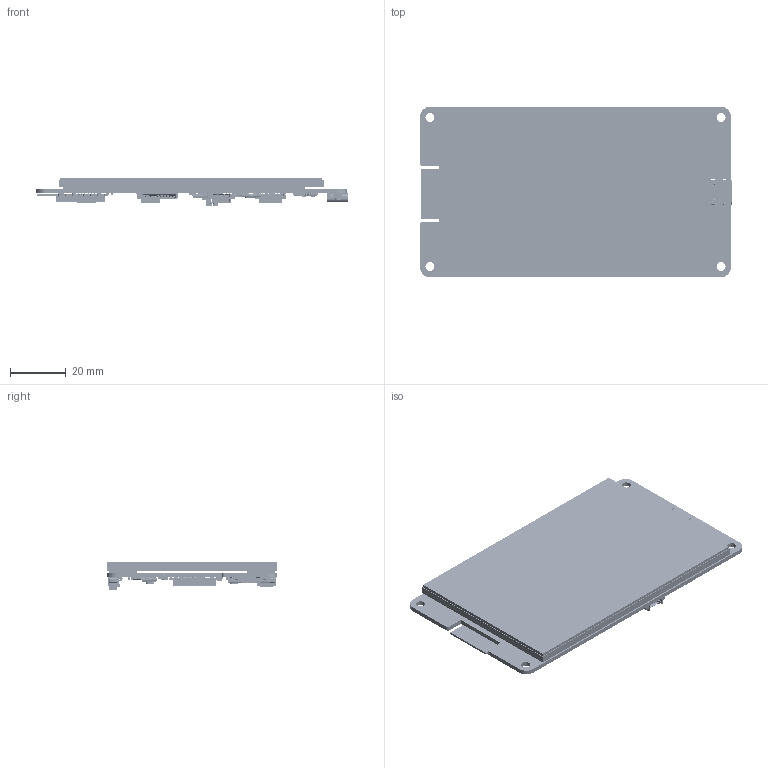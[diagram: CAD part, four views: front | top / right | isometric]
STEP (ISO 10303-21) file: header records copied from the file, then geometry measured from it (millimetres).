
FILE_DESCRIPTION(('Open CASCADE Model'),'2;1');
FILE_NAME('Open CASCADE Shape Model','2025-04-15T17:05:08',('Author'),( 'Open CASCADE'),'Open CASCADE STEP processor 6.8','Open CASCADE 6.8' ,'Unknown');
FILE_SCHEMA(('AUTOMOTIVE_DESIGN { 1 0 10303 214 1 1 1 1 }'));
Length unit declared in the file: millimetre
Products named in the file (308): PCB; Board; Open CASCADE STEP translator 6.8 1.1.1; R23; 6678512240; C27; C_0603; LOGO?; C25; R34; R33; R32; 6325786864; R31; R30; 6678518000; R29; Q5; 6678515120; U2; ESP32-WROOM-32E_20210903; ESP32-WROOM-32E_20210903.STEP; PCB_ESP32-WROOM-32E_V1(2)^PCB_ESP32-WROOM-32E_V1.STEP; DesignRootModel^PCB_ESP32-WROOM-32E_V1(2)_PCB_ESP32-WROOM-32E_V1.STEP; Submodel-SLP48_5X5_part^DesignRootModel_PCB_ESP32-WROOM-32E_V1(2)_PCB_
ESP32-WROOM-32E_V1.STEP; ESP32_5x5_20210301.STEP^Submodel-SLP48_5X5_part_DesignRootModel_PCB_
ESP32-WROOM-32E_V1(2)_PCB_ESP32-WROOM-32E_V1.STEP; ESP32_5x5_20210301.STEP^ESP32_5x5_20210301.STEP_Submodel-SLP48_5X5_
part_DesignRootModel_PCB_ESP32-WROOM-32E_V1(2)_PCB_ESP32-WROOM-32E_
V1.STEP; Submodel-ANT_L_TYPEA_1501846164_part^DesignRootModel_PCB_
ESP32-WROOM-32E_V1(2)_PCB_ESP32-WROOM-32E_V1.STEP; trace_1^Submodel-ANT_L_TYPEA_1501846164_part_DesignRootModel_PCB_
ESP32-WROOM-32E_V1(2)_PCB_ESP32-WROOM-32E_V1.STEP; Submodel-SOD882_part^DesignRootModel_PCB_ESP32-WROOM-32E_V1(2)_PCB_
ESP32-WROOM-32E_V1.STEP; DFN1006.STEP^Submodel-SOD882_part_DesignRootModel_PCB_ESP32-WROOM-32E_
V1(2)_PCB_ESP32-WROOM-32E_V1.STEP; DFN1006.STEP^DFN1006.STEP_Submodel-SOD882_part_DesignRootModel_PCB_
ESP32-WROOM-32E_V1(2)_PCB_ESP32-WROOM-32E_V1.STEP; Submodel-R0201_part^DesignRootModel_PCB_ESP32-WROOM-32E_V1(2)_PCB_
ESP32-WROOM-32E_V1.STEP; R0201_20210301.STEP^Submodel-R0201_part_DesignRootModel_PCB_
ESP32-WROOM-32E_V1(2)_PCB_ESP32-WROOM-32E_V1.STEP; R0201_20210301.STEP^R0201_20210301.STEP_Submodel-R0201_part_
DesignRootModel_PCB_ESP32-WROOM-32E_V1(2)_PCB_ESP32-WROOM-32E_V1.STEP; Submodel-R0201_part^DesignRootModel_PCB_ESP32-WROOM-32E_V1(2)_PCB_
ESP32-WROOM-32E_V1-1.STEP; R0201_20210301.STEP^Submodel-R0201_part_DesignRootModel_PCB_
ESP32-WROOM-32E_V1(2)_PCB_ESP32-WROOM-32E_V1-1.STEP; Submodel-R0201_part^DesignRootModel_PCB_ESP32-WROOM-32E_V1(2)_PCB_
ESP32-WROOM-32E_V1-2.STEP; R0201_20210301.STEP^Submodel-R0201_part_DesignRootModel_PCB_
ESP32-WROOM-32E_V1(2)_PCB_ESP32-WROOM-32E_V1-2.STEP; Submodel-L0201_part^DesignRootModel_PCB_ESP32-WROOM-32E_V1(2)_PCB_
ESP32-WROOM-32E_V1.STEP ...
Assembly tree (431 placements, depth 9):
  PCB
    Board
      Open CASCADE STEP translator 6.8 1.1.1
    R23
      6678512240
    C27
      C_0603
        LOGO?
        C_0603
    C25
      C_0603
        LOGO?
        C_0603
    R34
      6678512240
    R33
      6678512240
    R32
      6325786864
    R31
      6325786864
    R30
      6678518000
    R29
      6678518000
    Q5
      6678515120
    U2
      ESP32-WROOM-32E_20210903
        ESP32-WROOM-32E_20210903.STEP
          PCB_ESP32-WROOM-32E_V1(2)^PCB_ESP32-WROOM-32E_V1.STEP
            DesignRootModel^PCB_ESP32-WROOM-32E_V1(2)_PCB_ESP32-WROOM-32E_V1.STEP
              Submodel-SLP48_5X5_part^DesignRootModel_PCB_ESP32-WROOM-32E_V1(2)_PCB_
ESP32-WROOM-32E_V1.STEP
                ESP32_5x5_20210301.STEP^Submodel-SLP48_5X5_part_DesignRootModel_PCB_
ESP32-WROOM-32E_V1(2)_PCB_ESP32-WROOM-32E_V1.STEP
                  ESP32_5x5_20210301.STEP^ESP32_5x5_20210301.STEP_Submodel-SLP48_5X5_
part_DesignRootModel_PCB_ESP32-WROOM-32E_V1(2)_PCB_ESP32-WROOM-32E_
V1.STEP
              Submodel-ANT_L_TYPEA_1501846164_part^DesignRootModel_PCB_
ESP32-WROOM-32E_V1(2)_PCB_ESP32-WROOM-32E_V1.STEP
                trace_1^Submodel-ANT_L_TYPEA_1501846164_part_DesignRootModel_PCB_
ESP32-WROOM-32E_V1(2)_PCB_ESP32-WROOM-32E_V1.STEP
              Submodel-SOD882_part^DesignRootModel_PCB_ESP32-WROOM-32E_V1(2)_PCB_
ESP32-WROOM-32E_V1.STEP
                DFN1006.STEP^Submodel-SOD882_part_DesignRootModel_PCB_ESP32-WROOM-32E_
V1(2)_PCB_ESP32-WROOM-32E_V1.STEP
                  DFN1006.STEP^DFN1006.STEP_Submodel-SOD882_part_DesignRootModel_PCB_
ESP32-WROOM-32E_V1(2)_PCB_ESP32-WROOM-32E_V1.STEP
              Submodel-R0201_part^DesignRootModel_PCB_ESP32-WROOM-32E_V1(2)_PCB_
ESP32-WROOM-32E_V1.STEP
                R0201_20210301.STEP^Submodel-R0201_part_DesignRootModel_PCB_
ESP32-WROOM-32E_V1(2)_PCB_ESP32-WROOM-32E_V1.STEP
                  R0201_20210301.STEP^R0201_20210301.STEP_Submodel-R0201_part_
DesignRootModel_PCB_ESP32-WROOM-32E_V1(2)_PCB_ESP32-WROOM-32E_V1.STEP
              Submodel-R0201_part^DesignRootModel_PCB_ESP32-WROOM-32E_V1(2)_PCB_
ESP32-WROOM-32E_V1-1.STEP
                R0201_20210301.STEP^Submodel-R0201_part_DesignRootModel_PCB_
ESP32-WROOM-32E_V1(2)_PCB_ESP32-WROOM-32E_V1-1.STEP
                  R0201_20210301.STEP^R0201_20210301.STEP_Submodel-R0201_part_
DesignRootModel_PCB_ESP32-WROOM-32E_V1(2)_PCB_ESP32-WROOM-32E_V1.STEP
              Submodel-R0201_part^DesignRootModel_PCB_ESP32-WROOM-32E_V1(2)_PCB_
ESP32-WROOM-32E_V1-2.STEP
                R0201_20210301.STEP^Submodel-R0201_part_DesignRootModel_PCB_
ESP32-WROOM-32E_V1(2)_PCB_ESP32-WROOM-32E_V1-2.STEP
                  R0201_20210301.STEP^R0201_20210301.STEP_Submodel-R0201_part_
DesignRootModel_PCB_ESP32-WROOM-32E_V1(2)_PCB_ESP32-WROOM-32E_V1.STEP
              Submodel-L0201_part^DesignRootModel_PCB_ESP32-WROOM-32E_V1(2)_PCB_
ESP32-WROOM-32E_V1.STEP
                L0201_20210301.STEP^Submodel-L0201_part_DesignRootModel_PCB_
ESP32-WROOM-32E_V1(2)_PCB_ESP32-WROOM-32E_V1.STEP
                  L0201_20210301.STEP^L0201_20210301.STEP_Submodel-L0201_part_
DesignRootModel_PCB_ESP32-WROOM-32E_V1(2)_PCB_ESP32-WROOM-32E_V1.STEP
              Submodel-L0201_part^DesignRootModel_PCB_ESP32-WROOM-32E_V1(2)_PCB_
ESP32-WROOM-32E_V1-1.STEP
                L0201_20210301.STEP^Submodel-L0201_part_DesignRootModel_PCB_
ESP32-WROOM-32E_V1(2)_PCB_ESP32-WROOM-32E_V1-1.STEP
                  L0201_20210301.STEP^L0201_20210301.STEP_Submodel-L0201_part_
DesignRootModel_PCB_ESP32-WROOM-32E_V1(2)_PCB_ESP32-WROOM-32E_V1.STEP
              Submodel-C0201_part^DesignRootModel_PCB_ESP32-WROOM-32E_V1(2)_PCB_
ESP32-WROOM-32E_V1.STEP
                C0201_20210301.STEP^Submodel-C0201_part_DesignRootModel_PCB_
ESP32-WROOM-32E_V1(2)_PCB_ESP32-WROOM-32E_V1.STEP
                  C0201_20210301.STEP^C0201_20210301.STEP_Submodel-C0201_part_
DesignRootModel_PCB_ESP32-WROOM-32E_V1(2)_PCB_ESP32-WROOM-32E_V1.STEP
              Submodel-C0201_part^DesignRootModel_PCB_ESP32-WROOM-32E_V1(2)_PCB_
ESP32-WROOM-32E_V1-1.STEP
                C0201_20210301.STEP^Submodel-C0201_part_DesignRootModel_PCB_
ESP32-WROOM-32E_V1(2)_PCB_ESP32-WROOM-32E_V1-1.STEP
Bounding box: 111.48 x 60.88 x 10.35 mm (x, y, z)
Volume: 32941.3 mm3; surface area: 48416.2 mm2
Topology: 809 solids, 1726 shells, 17359 faces, 45966 edges, 31288 vertices
Faces by surface type: plane 10098, bspline 3918, cylinder 2949, sphere 380, torus 7, cone 7
Full cylindrical faces by diameter (mm): 1 x2, 3.2 x4
Entity records: 294018 total; most frequent: CARTESIAN_POINT 91251, ORIENTED_EDGE 34182, DIRECTION 32595, EDGE_CURVE 19643, LINE 14813, VECTOR 14813, VERTEX_POINT 14505, AXIS2_PLACEMENT_3D 8891
